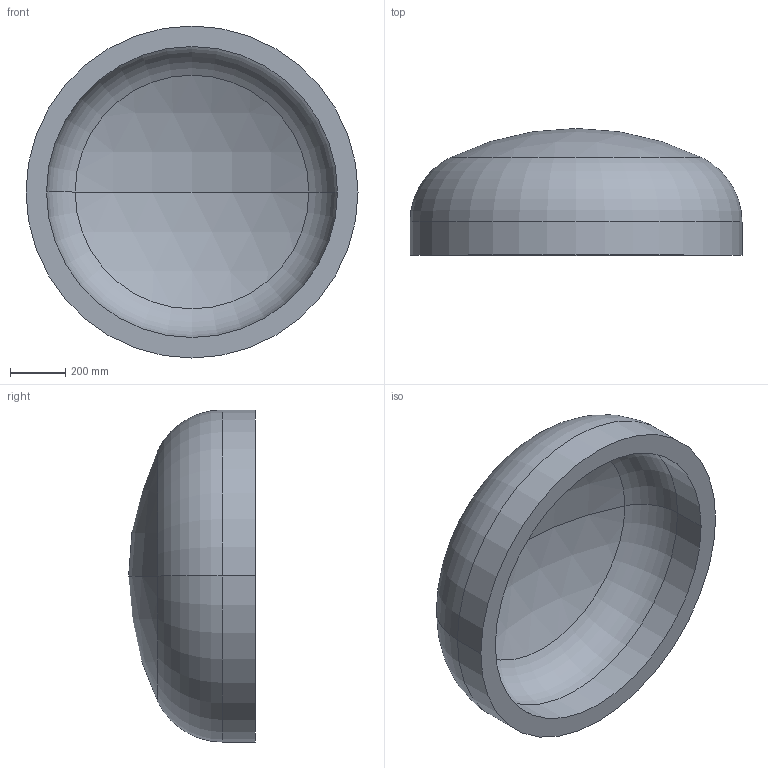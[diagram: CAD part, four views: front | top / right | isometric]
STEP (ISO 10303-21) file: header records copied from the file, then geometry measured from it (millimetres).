
FILE_DESCRIPTION (( 'STEP AP203' ), '1' );
FILE_NAME ('DIN 28013 Korbbogenform_-_Boden DIN 28013 - 1200 x 120 - I - s=74.step', '2016-07-01T09:34:20', ( '' ), ( '' ), 'SwSTEP 2.0', 'SolidWorks 2013', '' );
FILE_SCHEMA (( 'CONFIG_CONTROL_DESIGN' ));
Length unit declared in the file: millimetre
Products named in the file (1): DIN 28013 Korbbogenform_-_Boden DIN 28013 - 1200 x 120 - I - s=74
Bounding box: 1200 x 458.05 x 1200 mm (x, y, z)
Volume: 138597255.7 mm3; surface area: 4019109.9 mm2
Topology: 1 solids, 1 shells, 13 faces, 24 edges, 14 vertices
Faces by surface type: torus 4, cylinder 4, sphere 4, plane 1
Entity records: 407 total; most frequent: DIRECTION 72, CARTESIAN_POINT 52, ORIENTED_EDGE 48, AXIS2_PLACEMENT_3D 34, EDGE_CURVE 24, CIRCLE 20, EDGE_LOOP 14, VERTEX_POINT 14
